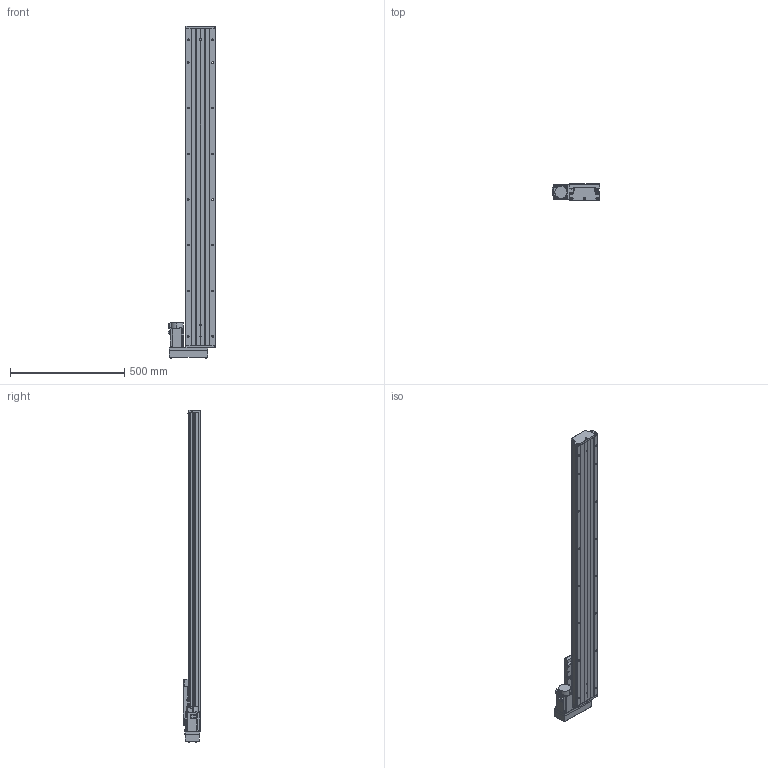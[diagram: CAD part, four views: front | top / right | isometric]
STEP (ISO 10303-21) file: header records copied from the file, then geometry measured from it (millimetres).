
FILE_DESCRIPTION (( 'STEP AP203' ), '1' );
FILE_NAME ('GTH14-1150-BL-M40-C4.step', '2023-06-30T08:38:16', ( '微软用户' ), ( '微软中国' ), 'SwSTEP 2.0', 'SolidWorks 2020', '' );
FILE_SCHEMA (( 'CONFIG_CONTROL_DESIGN' ));
Length unit declared in the file: millimetre
Products named in the file (19): GTH14-002_GTH14-002; CTHA60-016; GBT 70.2-M4¡Á35_M4¡Á35; GTH14-004; GBT 70.1-M3℅5; GTH14-015-2_CTHA86-015-2; GTH14-005; GBT77-2000 M3×3; GTH14-033; GB1155-6X6; GTH14-031; GTH14-1150-BL-M40-C4; GBT70.1 M5℅16; GBT 70.2-M3¡Á5_M3¡Á6; CTHA60-017; す晦芛蹟隊 M3℅5; GTH14-001_1150; EE_SX911P_R; HG-KN43J-S100
Assembly tree (58 placements, depth 2):
  GTH14-1150-BL-M40-C4
    GTH14-001_1150
    GTH14-002_GTH14-002
    GTH14-004
    GTH14-005
    GB1155-6X6  x2
    GBT70.1 M5℅16  x10
    CTHA60-017  x3
    EE_SX911P_R  x3
    CTHA60-016  x2
    GBT 70.1-M3℅5  x6
    GBT77-2000 M3×3  x6
    GTH14-031
    GBT 70.2-M3¡Á5_M3¡Á6  x8
    す晦芛蹟隊 M3℅5  x6
    HG-KN43J-S100
    GBT 70.2-M4¡Á35_M4¡Á35  x4
    GTH14-015-2_CTHA86-015-2
    GTH14-033
Bounding box: 209.3 x 78 x 1454.2 mm (x, y, z)
Volume: 7684188.2 mm3; surface area: 1221058.6 mm2
Topology: 61 solids, 61 shells, 2483 faces, 5905 edges, 3642 vertices
Faces by surface type: plane 1313, cylinder 680, cone 314, torus 124, sphere 32, bspline 20
Entity records: 45082 total; most frequent: CARTESIAN_POINT 10007, DIRECTION 6669, ORIENTED_EDGE 6500, EDGE_CURVE 3250, AXIS2_PLACEMENT_3D 2296, LINE 2077, VECTOR 2077, VERTEX_POINT 2060
